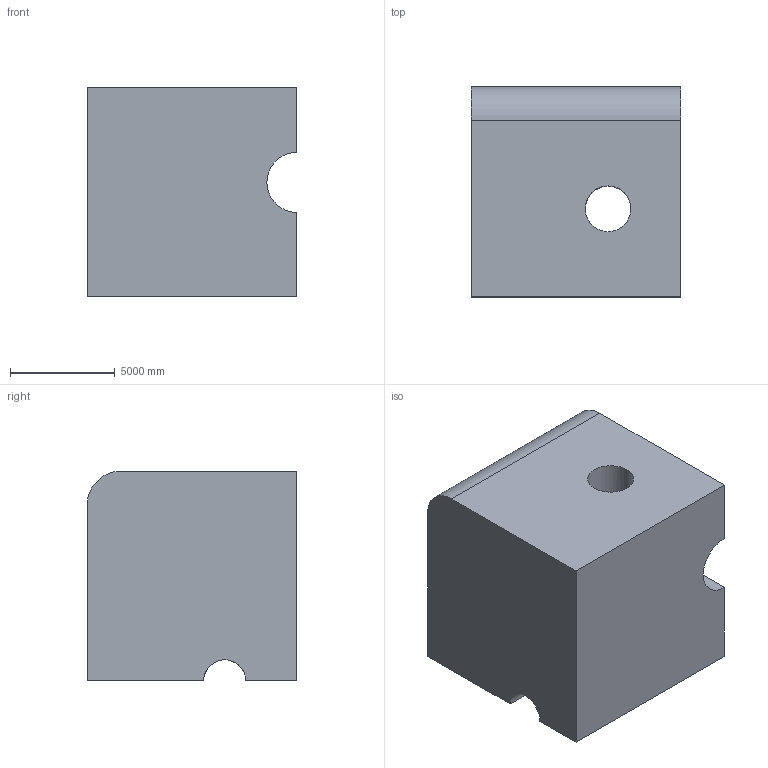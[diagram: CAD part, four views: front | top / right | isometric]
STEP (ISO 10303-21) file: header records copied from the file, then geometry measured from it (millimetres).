
FILE_DESCRIPTION (( 'STEP AP203' ), '1' );
FILE_NAME ('474.STEP', '2022-07-29T11:25:34', ( 'user' ), ( '' ), 'SwSTEP 2.0', 'SolidWorks 2021', '' );
FILE_SCHEMA (( 'CONFIG_CONTROL_DESIGN' ));
Length unit declared in the file: centimetre
Products named in the file (1): 474
Bounding box: 10000 x 10000 x 10000 mm (x, y, z)
Volume: 909209355566.9 mm3; surface area: 674690816.8 mm2
Topology: 1 solids, 1 shells, 20 faces, 57 edges, 38 vertices
Faces by surface type: plane 12, cylinder 8
Entity records: 949 total; most frequent: CARTESIAN_POINT 348, ORIENTED_EDGE 114, DIRECTION 104, EDGE_CURVE 57, VERTEX_POINT 38, LINE 36, VECTOR 36, AXIS2_PLACEMENT_3D 34
